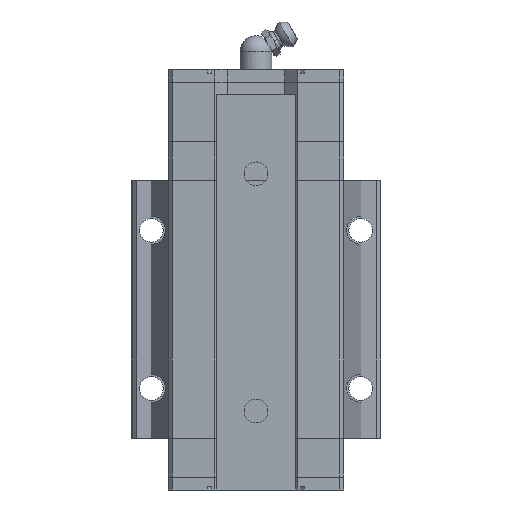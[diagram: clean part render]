
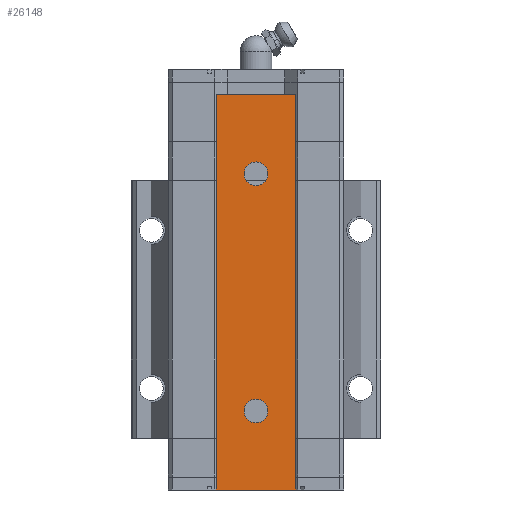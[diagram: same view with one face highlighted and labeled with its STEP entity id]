
A CAD part, front view. The second image highlights one B-rep face of the part: STEP entity #26148.
In plain terms, the highlighted planar face has unit normal (0, -1, 0).
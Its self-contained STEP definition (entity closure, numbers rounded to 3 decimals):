
#641 = EDGE_LOOP ( 'NONE', ( #14774, #4965, #13847, #11318 ) ) ;
#1130 = DIRECTION ( 'NONE',  ( 0., 0., 1. ) ) ;
#1815 = EDGE_CURVE ( 'NONE', #18490, #12612, #16612, .T. ) ;
#1929 = FACE_OUTER_BOUND ( 'NONE', #641, .T. ) ;
#2208 = ORIENTED_EDGE ( 'NONE', *, *, #10027, .T. ) ;
#2282 = DIRECTION ( 'NONE',  ( 0., 1., 0. ) ) ;
#2338 = CARTESIAN_POINT ( 'NONE',  ( 0., -4.3, 33. ) ) ;
#2503 = VERTEX_POINT ( 'NONE', #2338 ) ;
#2544 = DIRECTION ( 'NONE',  ( 0., 1., 0. ) ) ;
#3597 = EDGE_CURVE ( 'NONE', #13525, #15466, #29901, .T. ) ;
#3788 = VECTOR ( 'NONE', #1130, 1000. ) ;
#3867 = CARTESIAN_POINT ( 'NONE',  ( -10., -4.3, -50. ) ) ;
#4679 = CARTESIAN_POINT ( 'NONE',  ( 10., -4.3, 50. ) ) ;
#4965 = ORIENTED_EDGE ( 'NONE', *, *, #17094, .F. ) ;
#5254 = CARTESIAN_POINT ( 'NONE',  ( 0., -4.3, 27. ) ) ;
#6181 = AXIS2_PLACEMENT_3D ( 'NONE', #15627, #20594, #8327 ) ;
#6305 = CARTESIAN_POINT ( 'NONE',  ( -10., -4.3, -50. ) ) ;
#6737 = LINE ( 'NONE', #28570, #9419 ) ;
#6754 = EDGE_CURVE ( 'NONE', #12612, #18490, #24746, .T. ) ;
#7094 = DIRECTION ( 'NONE',  ( 0., 0., 1. ) ) ;
#7104 = CARTESIAN_POINT ( 'NONE',  ( 0., -4.3, 30. ) ) ;
#7456 = DIRECTION ( 'NONE',  ( 0., 0., 1. ) ) ;
#8327 = DIRECTION ( 'NONE',  ( 0., 0., 1. ) ) ;
#8680 = EDGE_CURVE ( 'NONE', #2503, #30446, #12736, .T. ) ;
#8891 = CARTESIAN_POINT ( 'NONE',  ( -10., -4.3, 50. ) ) ;
#9382 = DIRECTION ( 'NONE',  ( 0., 0., 1. ) ) ;
#9419 = VECTOR ( 'NONE', #11618, 1000. ) ;
#9479 = CARTESIAN_POINT ( 'NONE',  ( 0., -4.3, 30. ) ) ;
#9877 = VECTOR ( 'NONE', #13639, 1000. ) ;
#10027 = EDGE_CURVE ( 'NONE', #30446, #2503, #28386, .T. ) ;
#10727 = CARTESIAN_POINT ( 'NONE',  ( 10., -4.3, -50. ) ) ;
#11084 = PLANE ( 'NONE',  #31784 ) ;
#11170 = EDGE_CURVE ( 'NONE', #13719, #28364, #6737, .T. ) ;
#11318 = ORIENTED_EDGE ( 'NONE', *, *, #28356, .T. ) ;
#11618 = DIRECTION ( 'NONE',  ( 0., 0., 1. ) ) ;
#12194 = LINE ( 'NONE', #6305, #9877 ) ;
#12612 = VERTEX_POINT ( 'NONE', #27981 ) ;
#12736 = CIRCLE ( 'NONE', #17601, 3. ) ;
#13086 = ORIENTED_EDGE ( 'NONE', *, *, #8680, .T. ) ;
#13525 = VERTEX_POINT ( 'NONE', #29053 ) ;
#13556 = DIRECTION ( 'NONE',  ( 0., -1., 0. ) ) ;
#13639 = DIRECTION ( 'NONE',  ( 1., 0., 0. ) ) ;
#13719 = VERTEX_POINT ( 'NONE', #20064 ) ;
#13781 = DIRECTION ( 'NONE',  ( 1., 0., 0. ) ) ;
#13847 = ORIENTED_EDGE ( 'NONE', *, *, #11170, .F. ) ;
#14774 = ORIENTED_EDGE ( 'NONE', *, *, #3597, .T. ) ;
#15466 = VERTEX_POINT ( 'NONE', #4679 ) ;
#15627 = CARTESIAN_POINT ( 'NONE',  ( 0., -4.3, -30. ) ) ;
#16338 = ORIENTED_EDGE ( 'NONE', *, *, #1815, .T. ) ;
#16612 = CIRCLE ( 'NONE', #6181, 3. ) ;
#17094 = EDGE_CURVE ( 'NONE', #28364, #15466, #31124, .T. ) ;
#17601 = AXIS2_PLACEMENT_3D ( 'NONE', #7104, #24267, #9382 ) ;
#18490 = VERTEX_POINT ( 'NONE', #23558 ) ;
#18919 = EDGE_LOOP ( 'NONE', ( #16338, #19482 ) ) ;
#19482 = ORIENTED_EDGE ( 'NONE', *, *, #6754, .T. ) ;
#19892 = FACE_BOUND ( 'NONE', #29353, .T. ) ;
#20064 = CARTESIAN_POINT ( 'NONE',  ( -10., -4.3, -50. ) ) ;
#20594 = DIRECTION ( 'NONE',  ( 0., 1., 0. ) ) ;
#21831 = FACE_BOUND ( 'NONE', #18919, .T. ) ;
#23558 = CARTESIAN_POINT ( 'NONE',  ( 0., -4.3, -27. ) ) ;
#23771 = DIRECTION ( 'NONE',  ( 1., 0., 0. ) ) ;
#23923 = AXIS2_PLACEMENT_3D ( 'NONE', #31811, #2544, #7456 ) ;
#24267 = DIRECTION ( 'NONE',  ( 0., 1., 0. ) ) ;
#24746 = CIRCLE ( 'NONE', #23923, 3. ) ;
#25570 = CARTESIAN_POINT ( 'NONE',  ( -10., -4.3, 50. ) ) ;
#26148 = ADVANCED_FACE ( 'NONE', ( #21831, #19892, #1929 ), #11084, .T. ) ;
#27981 = CARTESIAN_POINT ( 'NONE',  ( 0., -4.3, -33. ) ) ;
#28356 = EDGE_CURVE ( 'NONE', #13719, #13525, #12194, .T. ) ;
#28364 = VERTEX_POINT ( 'NONE', #25570 ) ;
#28386 = CIRCLE ( 'NONE', #31075, 3. ) ;
#28570 = CARTESIAN_POINT ( 'NONE',  ( -10., -4.3, -50. ) ) ;
#29053 = CARTESIAN_POINT ( 'NONE',  ( 10., -4.3, -50. ) ) ;
#29353 = EDGE_LOOP ( 'NONE', ( #13086, #2208 ) ) ;
#29901 = LINE ( 'NONE', #10727, #3788 ) ;
#30446 = VERTEX_POINT ( 'NONE', #5254 ) ;
#31075 = AXIS2_PLACEMENT_3D ( 'NONE', #9479, #2282, #7094 ) ;
#31124 = LINE ( 'NONE', #8891, #31821 ) ;
#31784 = AXIS2_PLACEMENT_3D ( 'NONE', #3867, #13556, #13781 ) ;
#31811 = CARTESIAN_POINT ( 'NONE',  ( 0., -4.3, -30. ) ) ;
#31821 = VECTOR ( 'NONE', #23771, 1000. ) ;
